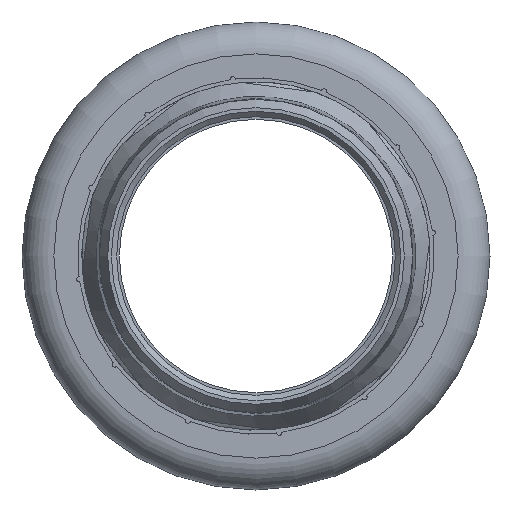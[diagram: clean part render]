
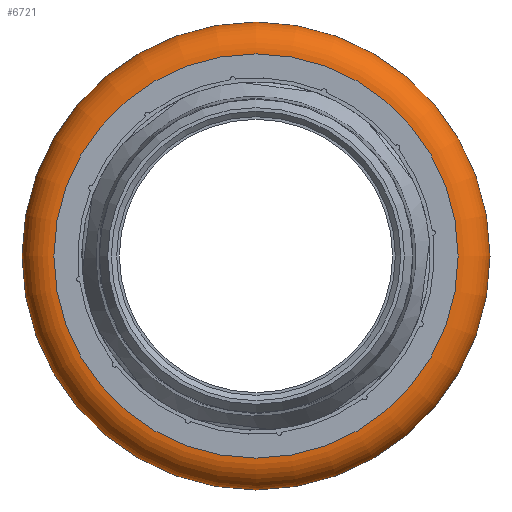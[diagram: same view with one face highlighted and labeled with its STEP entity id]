
A CAD part, left-side view. The second image highlights one B-rep face of the part: STEP entity #6721.
In plain terms, the highlighted toroidal (fillet/blend) face has major radius 38 mm and minor radius 6 mm.
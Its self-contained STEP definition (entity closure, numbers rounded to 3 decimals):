
#55=TOROIDAL_SURFACE('',#8627,38.,6.);
#808=CIRCLE('',#8626,38.);
#809=CIRCLE('',#8628,44.);
#2212=ORIENTED_EDGE('',*,*,#3840,.T.);
#2213=ORIENTED_EDGE('',*,*,#3839,.F.);
#3839=EDGE_CURVE('',#4739,#4739,#808,.T.);
#3840=EDGE_CURVE('',#4740,#4740,#809,.T.);
#4739=VERTEX_POINT('',#14424);
#4740=VERTEX_POINT('',#14427);
#5663=EDGE_LOOP('',(#2212));
#5664=EDGE_LOOP('',(#2213));
#6111=FACE_BOUND('',#5663,.T.);
#6112=FACE_BOUND('',#5664,.T.);
#6721=ADVANCED_FACE('',(#6111,#6112),#55,.T.);
#8626=AXIS2_PLACEMENT_3D('',#14423,#9776,#9777);
#8627=AXIS2_PLACEMENT_3D('',#14425,#9778,#9779);
#8628=AXIS2_PLACEMENT_3D('',#14426,#9780,#9781);
#9776=DIRECTION('',(-1.,0.,0.));
#9777=DIRECTION('',(0.,0.,1.));
#9778=DIRECTION('',(-1.,0.,0.));
#9779=DIRECTION('',(0.,0.,1.));
#9780=DIRECTION('',(-1.,0.,0.));
#9781=DIRECTION('',(0.,0.,1.));
#14423=CARTESIAN_POINT('',(0.,0.,0.));
#14424=CARTESIAN_POINT('',(0.,0.,38.));
#14425=CARTESIAN_POINT('',(6.,0.,0.));
#14426=CARTESIAN_POINT('',(6.,0.,0.));
#14427=CARTESIAN_POINT('',(6.,0.,44.));
